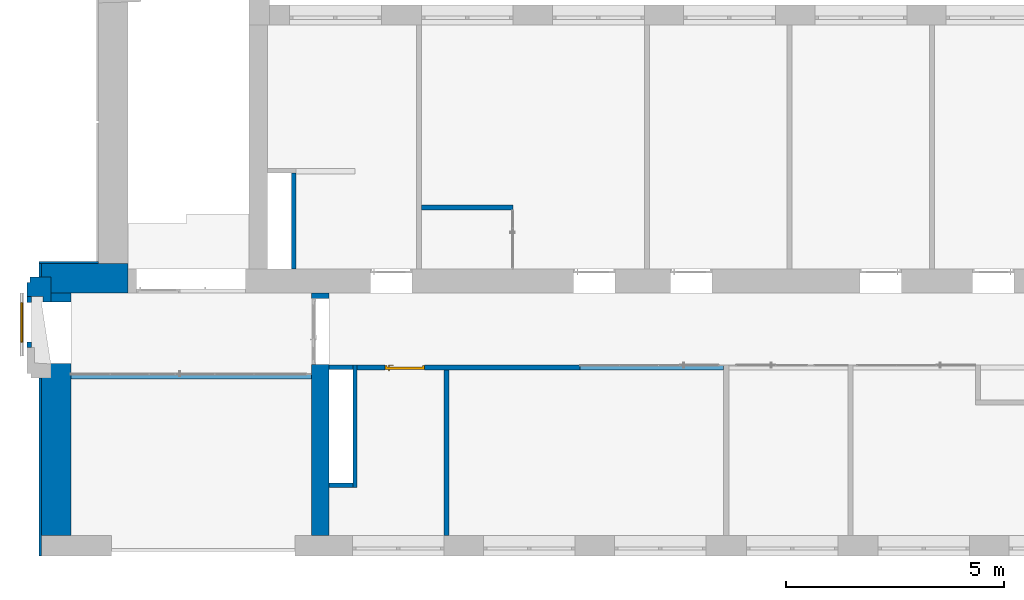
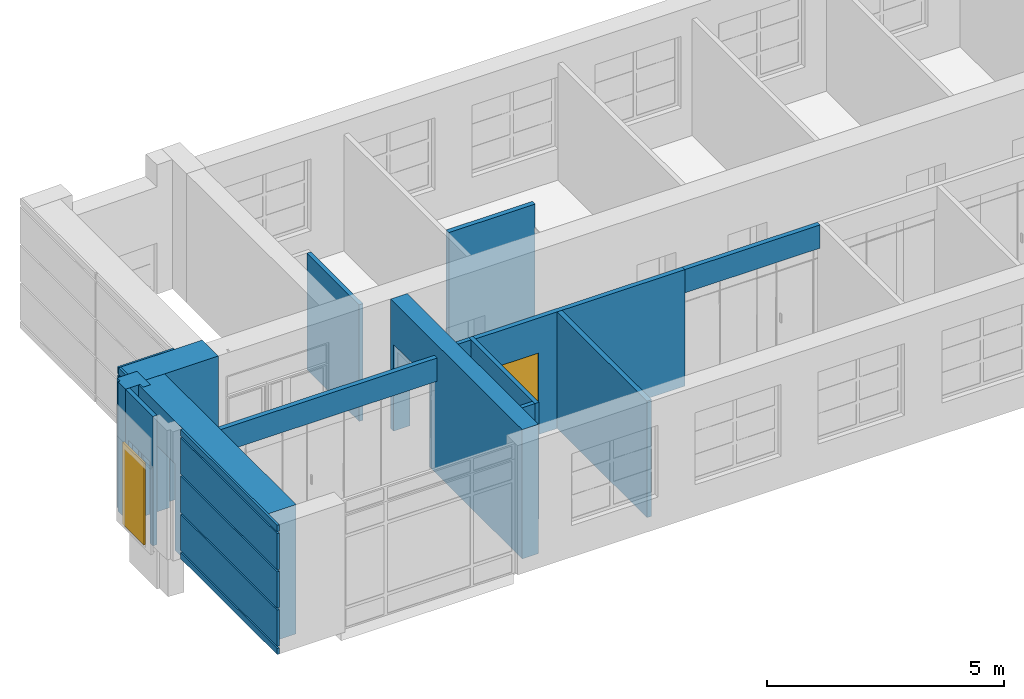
# One storey, part 50 of 73: 16 walls, 2 doors, 6 openings.
"""IFC2X3 building model written with IfcOpenShell, lengths in millimetres."""

from ifc_helpers import new_model, entity, si_unit, converted_unit, derived_unit, direction, frame, frame_2d, origin, origin_2d_with_axis, place, context, subcontext, project, spatial, polyline, rectangle, outline, extrude, clip, bounded_halfspace, faceted_brep, source, transform, mapped, material, material_list, layer, layer_set, layer_usage, type_object, type_shapes, element, fill, save


model = new_model("IFC2X3")

# Units and contexts
model_context = context("Model", 3, precision=0.01, world=origin(), true_north=direction((6.12303176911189e-17, 1.0)))
body_context = subcontext(model_context, "Body", "Model", "MODEL_VIEW")
ifc_project = project(units=[si_unit("LENGTHUNIT", "METRE", prefix="MILLI"), si_unit("AREAUNIT", "SQUARE_METRE"), si_unit("VOLUMEUNIT", "CUBIC_METRE"), converted_unit("PLANEANGLEUNIT", "DEGREE", entity("IfcRatioMeasure", 0.0174532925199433), si_unit("PLANEANGLEUNIT", "RADIAN"), dimensions=[0, 0, 0, 0, 0, 0, 0]), si_unit("MASSUNIT", "GRAM", prefix="KILO"), derived_unit("MASSDENSITYUNIT", [(si_unit("MASSUNIT", "GRAM", prefix="KILO"), 1), (si_unit("LENGTHUNIT", "METRE"), -3)]), si_unit("TIMEUNIT", "SECOND"), si_unit("FREQUENCYUNIT", "HERTZ"), si_unit("THERMODYNAMICTEMPERATUREUNIT", "DEGREE_CELSIUS"), derived_unit("THERMALTRANSMITTANCEUNIT", [(si_unit("MASSUNIT", "GRAM", prefix="KILO"), 1), (si_unit("THERMODYNAMICTEMPERATUREUNIT", "KELVIN"), -1), (si_unit("TIMEUNIT", "SECOND"), -3)]), derived_unit("VOLUMETRICFLOWRATEUNIT", [(si_unit("LENGTHUNIT", "METRE"), 3), (si_unit("TIMEUNIT", "SECOND"), -1)]), si_unit("ELECTRICCURRENTUNIT", "AMPERE"), si_unit("ELECTRICVOLTAGEUNIT", "VOLT"), si_unit("POWERUNIT", "WATT"), si_unit("FORCEUNIT", "NEWTON", prefix="KILO"), si_unit("ILLUMINANCEUNIT", "LUX"), si_unit("LUMINOUSFLUXUNIT", "LUMEN"), si_unit("LUMINOUSINTENSITYUNIT", "CANDELA"), derived_unit("USERDEFINED", [(si_unit("MASSUNIT", "GRAM", prefix="KILO"), -1), (si_unit("LENGTHUNIT", "METRE"), -2), (si_unit("TIMEUNIT", "SECOND"), 3), (si_unit("LUMINOUSFLUXUNIT", "LUMEN"), 1)]), derived_unit("LINEARVELOCITYUNIT", [(si_unit("LENGTHUNIT", "METRE"), 1), (si_unit("TIMEUNIT", "SECOND"), -1)]), si_unit("PRESSUREUNIT", "PASCAL"), derived_unit("USERDEFINED", [(si_unit("LENGTHUNIT", "METRE"), -2), (si_unit("MASSUNIT", "GRAM", prefix="KILO"), 1), (si_unit("TIMEUNIT", "SECOND"), -2)])], contexts=[model_context])

# Site, building, storey
site_placement = place(None, frame((-151.875543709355, 2715.0, 0.0)))
site = spatial("IfcSite", under=ifc_project, at=site_placement, Name="Surface", CompositionType="ELEMENT")
building_placement = place(site_placement, origin())
building = spatial("IfcBuilding", under=site, at=building_placement, CompositionType="ELEMENT")
storey_placement = place(building_placement, frame((0.0, 0.0, 6730.43000000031)))
storey = spatial("IfcBuildingStorey", under=building, at=storey_placement, Name="3 korrus", CompositionType="ELEMENT", Elevation=6730.43000000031)

# Wall
ifc_material_1 = material(Name="Paint - Sand Beige")
wall_type_1 = type_object("IfcWallType", Name="SEIN - 008", PredefinedType="NOTDEFINED", material=ifc_material_1)
wall_1_placement = place(storey_placement, frame((-541.883383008, 5811.79428101, 0.00203353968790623), z_axis=(0.0, 0.0, 1.0), x_axis=(0.0, 1.0, 0.0)))
element("IfcWall", 1, at=wall_1_placement, inside=storey, type_object=wall_type_1, material=ifc_material_1, Name="SEIN - 008 125636:SEIN - 008 125636", ObjectType="SEIN - 008 125636:SEIN - 008 125636", context=body_context, shape_type="SweptSolid", body=[
    extrude(outline(polyline([(-157.552994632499, -240.085415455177), (163.395247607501, -240.085415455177), (163.395247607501, 118.497317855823), (281.7118979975, 118.497317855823), (281.7118979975, 301.673513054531), (-287.554150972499, 301.673513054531), (-287.554150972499, -180.085415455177), (-157.552994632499, -180.085415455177), (-157.552994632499, -240.085415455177)])), frame((281.7118979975, -240.085415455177, 0.0), z_axis=(0.0, 0.0, 1.0), x_axis=(-1.0, 0.0, 0.0)), (0.0, 0.0, 1.0), 3329.56796646),
])

# Wall, opening, door
ifc_material_2 = material(Name="Tellis")
ifc_layer_1 = layer(ifc_material_2, 90.0)
ifc_material_3 = material(Name="__Hall krohv")
ifc_layer_2 = layer(ifc_material_3, 10.0)
ifc_layer_set_1 = layer_set([ifc_layer_1, ifc_layer_2], Name="Basic Wall:SS-01_ol.olev tellissein100")
ifc_layer_usage_1 = layer_usage(ifc_layer_set_1, "AXIS2", "NEGATIVE", 50.0)
wall_type_2 = type_object("IfcWallType", Name="Basic Wall:SS-01_ol.olev tellissein100", PredefinedType="STANDARD", material=ifc_layer_set_1)
wall_2_placement = place(storey_placement, frame((-491.883383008, 4771.38562567, 0.00203353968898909), z_axis=(0.0, 0.0, 1.0), x_axis=(0.0, 1.0, 0.0)))
wall_2 = element("IfcWallStandardCase", 2, at=wall_2_placement, inside=storey, type_object=wall_type_2, material=ifc_layer_usage_1, Name="SEIN - 008", ObjectType="Basic Wall:SS-01_ol.olev tellissein100", context=body_context, shape_type="SweptSolid", body=[
    extrude(rectangle(XDim=1158.72530573, YDim=100.0, at=frame_2d((579.362652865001, 0.0), x_axis=(-1.0, 0.0))), origin(), (0.0, 0.0, 1.0), 3329.56796646),
])
opening_1_placement = place(wall_2_placement, frame((-4771.38562567, -491.883383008, -0.00203353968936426), z_axis=(0.0, 0.0, 1.0), x_axis=(0.0, -1.0, 0.0)))
opening_1 = element("IfcOpeningElement", 3, at=opening_1_placement, cuts=wall_2, Name="SEIN - 008", ObjectType="Opening", context=body_context, shape_type="SweptSolid", body=[
    extrude(rectangle(XDim=2100.0, YDim=903.930664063, at=frame_2d((5.40012479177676e-13, 5.6843418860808e-13), x_axis=(0.0, 1.0))), frame((-338.883383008, 5344.60067749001, 1050.00203353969), z_axis=(-1.0, 0.0, 0.0), x_axis=(0.0, -1.0, 0.0)), (0.0, 0.0, 1.0), 306.0),
])
ifc_material_4 = material(Name="Wood - Pine Grained Horizontal")
door_style_1 = type_object("IfcDoorStyle", Name="liftiuks", ConstructionType="NOTDEFINED", OperationType="NOTDEFINED", ParameterTakesPrecedence=False, Sizeable=False, material=ifc_material_4)
shared_shape_1 = source(origin(), body_context, "Body", "SweptSolid", [
    extrude(rectangle(XDim=451.965332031, YDim=40.0, at=origin_2d_with_axis()), frame((225.982666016, 22.0, 0.0), z_axis=(0.0, 0.0, 1.0), x_axis=(-1.0, 0.0, 0.0)), (0.0, 0.0, 1.0), 2100.0),
    extrude(rectangle(XDim=40.0, YDim=451.965332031, at=origin_2d_with_axis()), frame((677.947998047, 22.0, 0.0), z_axis=(0.0, 0.0, 1.0), x_axis=(0.0, 1.0, 0.0)), (0.0, 0.0, 1.0), 2100.0),
])
type_shapes(door_style_1, [shared_shape_1])
door_1_placement = place(opening_1_placement, frame((-644.883383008, 4892.63534545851, 0.00203353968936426), z_axis=(0.0, 0.0, 1.0), x_axis=(0.0, 1.0, 0.0)))
door_1 = element("IfcDoor", 4, at=door_1_placement, inside=storey, type_object=door_style_1, material=ifc_material_4, Name="liftiuks:liftiuks", ObjectType="liftiuks", OverallHeight=2100.0, OverallWidth=903.930664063, context=body_context, shape_type="MappedRepresentation", body=[
    mapped(shared_shape_1, transform((0.0, 0.0, 0.0), scale=1.0)),
])
fill(opening_1, door_1)

# Wall, opening
ifc_material_5 = material(Name="__Tuuletõkkeplaat")
ifc_layer_3 = layer(ifc_material_5, 9.0)
ifc_material_6 = material(Name="__Soojustus EPS")
ifc_layer_4 = layer(ifc_material_6, 200.0)
ifc_material_7 = material(Name="Brick, Common")
ifc_layer_5 = layer(ifc_material_7, 450.0)
ifc_material_8 = material(Name="__Kips GN13_tava")
ifc_layer_6 = layer(ifc_material_8, 20.0)
ifc_layer_set_2 = layer_set([ifc_layer_3, ifc_layer_4, ifc_layer_5, ifc_layer_6], Name="Basic Wall:VS-2_olemasolev sein fassaadikassettidega")
ifc_layer_usage_2 = layer_usage(ifc_layer_set_2, "AXIS2", "NEGATIVE", 339.5)
wall_type_3 = type_object("IfcWallType", Name="Basic Wall:VS-2_olemasolev sein fassaadikassettidega", PredefinedType="STANDARD", material=ifc_layer_set_2)
wall_3_placement = place(storey_placement, frame((120.375545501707, 459.904632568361, 0.00203353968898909), z_axis=(0.0, 0.0, 1.0), x_axis=(0.0, 1.0, 0.0)))
wall_3 = element("IfcWallStandardCase", 5, at=wall_3_placement, inside=storey, type_object=wall_type_3, material=ifc_layer_usage_2, Name="SEIN - 001", ObjectType="Basic Wall:VS-2_olemasolev sein fassaadikassettidega", context=body_context, shape_type="SweptSolid", body=[
    extrude(rectangle(XDim=5550.09536743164, YDim=679.0, at=frame_2d((2775.04768371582, -5.6843418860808e-14), x_axis=(-1.0, 0.0))), origin(), (0.0, 0.0, 1.0), 3329.56796646),
])
opening_2_placement = place(wall_3_placement, origin())
element("IfcOpeningElement", 6, at=opening_2_placement, cuts=wall_3, Name="SEIN - 001", ObjectType="Opening", context=body_context, shape_type="SweptSolid", body=[
    extrude(rectangle(XDim=2230.0, YDim=1410.5172629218, at=frame_2d((0.0, -5.6843418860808e-13), x_axis=(1.0, 0.0))), frame((4646.6310169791, -339.5, 1115.0), z_axis=(0.0, 1.0, 0.0), x_axis=(0.0, 0.0, -1.0)), (0.0, 0.0, 1.0), 679.0),
])

# Wall
ifc_layer_usage_3 = layer_usage(ifc_layer_set_2, "AXIS2", "NEGATIVE", 339.5)
wall_4_placement = place(storey_placement, frame((-219.124454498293, 6349.5, 0.00203353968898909)))
element("IfcWallStandardCase", 7, at=wall_4_placement, inside=storey, type_object=wall_type_3, material=ifc_layer_usage_3, Name="SEIN - 002", ObjectType="Basic Wall:VS-2_olemasolev sein fassaadikassettidega", context=body_context, shape_type="SweptSolid", body=[
    extrude(rectangle(XDim=1989.12445449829, YDim=678.999999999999, at=frame_2d((994.562227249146, 0.0), x_axis=(-1.0, 0.0))), origin(), (0.0, 0.0, 1.0), 3329.56796646),
])

# Wall, openings
ifc_layer_7 = layer(ifc_material_3, 10.0)
ifc_layer_8 = layer(ifc_material_2, 380.0)
ifc_layer_9 = layer(ifc_material_3, 10.0)
ifc_layer_set_3 = layer_set([ifc_layer_7, ifc_layer_8, ifc_layer_9], Name="Basic Wall:SS-01_ol.olev tellissein400")
ifc_layer_usage_4 = layer_usage(ifc_layer_set_3, "AXIS2", "NEGATIVE", 200.0)
wall_type_4 = type_object("IfcWallType", Name="Basic Wall:SS-01_ol.olev tellissein400", PredefinedType="STANDARD", material=ifc_layer_set_3)
wall_5_placement = place(storey_placement, frame((6162.49352943, 459.904632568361, 0.00203353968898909), z_axis=(0.0, 0.0, 1.0), x_axis=(0.0, 1.0, 0.0)))
wall_5 = element("IfcWallStandardCase", 8, at=wall_5_placement, inside=storey, type_object=wall_type_4, material=ifc_layer_usage_4, Name="SEIN - 001", ObjectType="Basic Wall:SS-01_ol.olev tellissein400", context=body_context, shape_type="SweptSolid", body=[
    extrude(rectangle(XDim=5550.09536743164, YDim=400.0, at=frame_2d((2775.04768371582, 0.0), x_axis=(-1.0, 0.0))), origin(), (0.0, 0.0, 1.0), 3329.56796646),
])
opening_3_placement = place(wall_5_placement, origin())
element("IfcOpeningElement", 9, at=opening_3_placement, cuts=wall_5, Name="SEIN - 001", ObjectType="Opening", context=body_context, shape_type="SweptSolid", body=[
    extrude(rectangle(XDim=2230.0, YDim=1510.16235352, at=origin_2d_with_axis()), frame((4671.45356888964, -200.0, 1115.0), z_axis=(0.0, 1.0, 0.0), x_axis=(0.0, 0.0, -1.0)), (0.0, 0.0, 1.0), 800.0),
])
opening_4_placement = place(wall_5_placement, origin())
element("IfcOpeningElement", 10, at=opening_4_placement, cuts=wall_5, Name="SEIN - 001", ObjectType="Opening", context=body_context, shape_type="SweptSolid", body=[
    extrude(rectangle(XDim=2419.99999999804, YDim=1500.0, at=frame_2d((-1.02318153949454e-12, 5.11590769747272e-13), x_axis=(1.0, 0.0))), frame((4666.37239212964, -1724.0, 4539.56593291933), z_axis=(0.0, 1.0, 0.0), x_axis=(0.0, 0.0, 1.0)), (0.0, 0.0, 1.0), 3048.0),
])
opening_5_placement = place(wall_5_placement, frame((3916.37239212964, -200.0, -0.00203353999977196)))
element("IfcOpeningElement", 11, at=opening_5_placement, cuts=wall_5, Name="Kahepoolsed:SU-14:1", ObjectType="Opening", context=body_context, shape_type="SweptSolid", body=[
    extrude(rectangle(XDim=2199.99999999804, YDim=1500.0, at=frame_2d((1099.99999999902, 750.0), x_axis=(1.0, 0.0))), frame((0.0, 0.0, 0.0), z_axis=(0.0, 1.0, 0.0), x_axis=(0.0, 0.0, 1.0)), (0.0, 0.0, 1.0), 400.0),
])

# Wall
ifc_layer_10 = layer(ifc_material_8, 12.5)
ifc_layer_11 = layer(ifc_material_8, 12.5)
ifc_layer_12 = layer(ifc_material_6, 66.0)
ifc_layer_13 = layer(ifc_material_8, 12.5)
ifc_layer_14 = layer(ifc_material_8, 12.5)
ifc_layer_set_4 = layer_set([ifc_layer_10, ifc_layer_11, ifc_layer_12, ifc_layer_13, ifc_layer_14], Name="Basic Wall:SS-3_Kipssein tava ruumide vahel")
ifc_layer_usage_5 = layer_usage(ifc_layer_set_4, "AXIS2", "NEGATIVE", 58.0)
wall_type_5 = type_object("IfcWallType", Name="Basic Wall:SS-3_Kipssein tava ruumide vahel", PredefinedType="STANDARD", material=ifc_layer_set_4)
wall_6_placement = place(storey_placement, frame((9057.56472636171, 459.904632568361, 0.0), z_axis=(0.0, 0.0, 1.0), x_axis=(0.0, 1.0, 0.0)))
element("IfcWallStandardCase", 12, at=wall_6_placement, inside=storey, type_object=wall_type_5, material=ifc_layer_usage_5, Name="Basic Wall:SS-3_Kipssein tava ruumide vahel", ObjectType="Basic Wall:SS-3_Kipssein tava ruumide vahel", context=body_context, shape_type="SweptSolid", body=[
    extrude(rectangle(XDim=3789.13683018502, YDim=116.0, at=frame_2d((1894.56841509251, -9.59232693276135e-14), x_axis=(-1.0, 0.0))), origin(), (0.0, 0.0, 1.0), 3000.0),
])

# Wall, opening, door
ifc_layer_usage_6 = layer_usage(ifc_layer_set_4, "AXIS2", "NEGATIVE", 58.0)
wall_7_placement = place(storey_placement, frame((7012.49352946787, 4307.04146275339, 0.0)))
wall_7 = element("IfcWallStandardCase", 13, at=wall_7_placement, inside=storey, type_object=wall_type_5, material=ifc_layer_usage_6, Name="Basic Wall:SS-3_Kipssein tava ruumide vahel", ObjectType="Basic Wall:SS-3_Kipssein tava ruumide vahel", context=body_context, shape_type="SweptSolid", body=[
    extrude(rectangle(XDim=5101.07119693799, YDim=116.0, at=frame_2d((2550.535598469, 0.0), x_axis=(-1.0, 0.0))), origin(), (0.0, 0.0, 1.0), 3000.0),
])
opening_6_placement = place(wall_7_placement, frame((1537.07119689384, 58.0, 0.0)))
opening_6 = element("IfcOpeningElement", 14, at=opening_6_placement, cuts=wall_7, Name="Ühepoolsed:SU-06:1", ObjectType="Opening", context=body_context, shape_type="SweptSolid", body=[
    extrude(rectangle(XDim=2099.99999999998, YDim=900.0, at=frame_2d((1049.99999999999, 450.0), x_axis=(1.0, 0.0))), frame((0.0, 0.0, 0.0), z_axis=(0.0, -1.0, 0.0), x_axis=(0.0, 0.0, 1.0)), (0.0, 0.0, 1.0), 116.0),
])
ifc_material_9 = material(Name="_Alumiiniumprofiil - must")
ifc_material_10 = material(Name="__Uks_hele tamm")
ifc_material_list_1 = material_list([ifc_material_9, ifc_material_10])
ifc_material_list_2 = material_list([ifc_material_9, ifc_material_10])
door_style_2 = type_object("IfcDoorStyle", Name="SU-06", ConstructionType="NOTDEFINED", OperationType="FOLDING_TO_LEFT", ParameterTakesPrecedence=False, Sizeable=False, material=ifc_material_list_2)
shared_shape_2 = source(origin(), body_context, "Body", "Brep", [
    faceted_brep([(800.0, 6.0, 1112.5), (705.0, 6.0, 1112.5), (705.0, 1.0, 1112.5), (825.0, 1.0, 1112.5), (825.0, 44.0, 1112.5), (800.0, 44.0, 1112.5), (800.0, 6.0, 1087.5), (800.0, 44.0, 1087.5), (825.0, 44.0, 1087.5), (825.0, 1.0, 1087.5), (705.0, 1.0, 1087.5), (705.0, 6.0, 1087.5)], [[[0, 1, 2, 3, 4, 5]], [[6, 7, 8, 9, 10, 11]], [[5, 7, 6, 0]], [[4, 8, 7, 5]], [[3, 9, 8, 4]], [[2, 10, 9, 3]], [[1, 11, 10, 2]], [[0, 6, 11, 1]]]),
    faceted_brep([(787.500000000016, 44.0, 1137.5), (837.500000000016, 44.0, 1137.5), (837.500000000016, 46.0, 1137.5), (787.500000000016, 46.0, 1137.5), (787.500000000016, 44.0, 1017.5), (787.500000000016, 46.0, 1017.5), (837.500000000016, 46.0, 1017.5), (837.500000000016, 44.0, 1017.5)], [[[0, 1, 2, 3]], [[4, 5, 6, 7]], [[3, 5, 4, 0]], [[2, 6, 5, 3]], [[1, 7, 6, 2]], [[0, 4, 7, 1]]]),
    faceted_brep([(800.0, 136.0, 1112.5), (800.0, 98.0, 1112.5), (825.0, 98.0, 1112.5), (825.0, 141.0, 1112.5), (705.0, 141.0, 1112.5), (705.0, 136.0, 1112.5), (800.0, 136.0, 1087.5), (705.0, 136.0, 1087.5), (705.0, 141.0, 1087.5), (825.0, 141.0, 1087.5), (825.0, 98.0, 1087.5), (800.0, 98.0, 1087.5)], [[[0, 1, 2, 3, 4, 5]], [[6, 7, 8, 9, 10, 11]], [[1, 0, 6, 11]], [[2, 1, 11, 10]], [[3, 2, 10, 9]], [[4, 3, 9, 8]], [[5, 4, 8, 7]], [[0, 5, 7, 6]]]),
    faceted_brep([(787.500000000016, 98.0, 1137.5), (787.500000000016, 96.0, 1137.5), (837.500000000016, 96.0, 1137.5), (837.500000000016, 98.0, 1137.5), (787.500000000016, 98.0, 1017.5), (837.500000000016, 98.0, 1017.5), (837.500000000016, 96.0, 1017.5), (787.500000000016, 96.0, 1017.5)], [[[0, 1, 2, 3]], [[4, 5, 6, 7]], [[1, 0, 4, 7]], [[2, 1, 7, 6]], [[3, 2, 6, 5]], [[0, 3, 5, 4]]]),
    faceted_brep([(0.0, 6.0, 0.0), (0.0, 96.0, 0.0), (25.0, 96.0, 0.0), (25.0, 46.0, 0.0), (40.0, 46.0, 0.0), (40.0, 6.0, 0.0), (40.0, 6.0, 2060.0), (860.0, 6.0, 2060.0), (860.0, 6.0, 0.0), (900.0, 6.0, 0.0), (900.0, 6.0, 2100.0), (0.0, 6.0, 2100.0), (40.0, 46.0, 2060.0), (25.0, 46.0, 2075.0), (875.0, 46.0, 2075.0), (875.0, 46.0, 0.0), (860.0, 46.0, 0.0), (860.0, 46.0, 2060.0), (25.0, 96.0, 2075.0), (0.0, 96.0, 2100.0), (900.0, 96.0, 2100.0), (900.0, 96.0, 0.0), (875.0, 96.0, 0.0), (875.0, 96.0, 2075.0)], [[[0, 1, 2, 3, 4, 5]], [[5, 6, 7, 8, 9, 10, 11, 0]], [[4, 12, 6, 5]], [[3, 13, 14, 15, 16, 17, 12, 4]], [[2, 18, 13, 3]], [[1, 19, 20, 21, 22, 23, 18, 2]], [[0, 11, 19, 1]], [[9, 21, 20, 10]], [[8, 16, 15, 22, 21, 9]], [[7, 17, 16, 8]], [[14, 23, 22, 15]], [[6, 12, 17, 7]], [[13, 18, 23, 14]], [[10, 20, 19, 11]]]),
    faceted_brep([(875.0, 46.0, 2075.0), (25.0, 46.0, 2075.0), (25.0, 46.0, 20.0), (875.0, 46.0, 20.0), (875.0, 96.0, 2075.0), (875.0, 96.0, 20.0), (25.0, 96.0, 20.0), (25.0, 96.0, 2075.0)], [[[0, 1, 2, 3]], [[4, 5, 6, 7]], [[3, 5, 4, 0]], [[2, 6, 5, 3]], [[1, 7, 6, 2]], [[0, 4, 7, 1]]]),
])
type_shapes(door_style_2, [shared_shape_2])
door_2_placement = place(opening_6_placement, frame((0.0, 0.0, 0.0), z_axis=(0.0, 0.0, 1.0), x_axis=(-1.0, 0.0, 0.0)))
door_2 = element("IfcDoor", 15, at=door_2_placement, inside=storey, type_object=door_style_2, material=ifc_material_list_1, Name="Ühepoolsed:SU-06", ObjectType="SU-06", OverallHeight=2099.99999999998, OverallWidth=900.0, context=body_context, shape_type="MappedRepresentation", body=[
    mapped(shared_shape_2, transform((0.0, 0.0, 0.0), scale=1.0)),
])
fill(opening_6, door_2)

# Walls
ifc_layer_usage_7 = layer_usage(ifc_layer_set_4, "AXIS2", "NEGATIVE", 58.0)
wall_8_placement = place(storey_placement, frame((12115.5647264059, 4307.04493399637, 2400.0)))
element("IfcWallStandardCase", 16, at=wall_8_placement, inside=storey, type_object=wall_type_5, material=ifc_layer_usage_7, Name="Basic Wall:SS-3_Kipssein tava ruumide vahel", ObjectType="Basic Wall:SS-3_Kipssein tava ruumide vahel", context=body_context, shape_type="SweptSolid", body=[
    extrude(rectangle(XDim=3286.00000000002, YDim=116.0, at=frame_2d((1643.00000000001, 0.0), x_axis=(-1.0, 0.0))), origin(), (0.0, 0.0, 1.0), 599.569999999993),
])
ifc_layer_usage_8 = layer_usage(ifc_layer_set_4, "AXIS2", "NEGATIVE", 58.0)
wall_9_placement = place(storey_placement, frame((459.875545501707, 4107.0449339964, 2400.0)))
element("IfcWallStandardCase", 17, at=wall_9_placement, inside=storey, type_object=wall_type_5, material=ifc_layer_usage_8, Name="Basic Wall:SS-3_Kipssein tava ruumide vahel", ObjectType="Basic Wall:SS-3_Kipssein tava ruumide vahel", context=body_context, shape_type="SweptSolid", body=[
    extrude(rectangle(XDim=5502.61798392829, YDim=116.0, at=frame_2d((2751.30899196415, -1.52766688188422e-13), x_axis=(-1.0, 0.0))), origin(), (0.0, 0.0, 1.0), 599.569999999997),
])
ifc_layer_usage_9 = layer_usage(ifc_layer_set_4, "AXIS2", "NEGATIVE", 58.0)
wall_10_placement = place(storey_placement, frame((10582.8493480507, 7973.06145812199, 0.0), z_axis=(0.0, 0.0, 1.0), x_axis=(-1.0, 0.0, 0.0)))
element("IfcWallStandardCase", 18, at=wall_10_placement, inside=storey, type_object=wall_type_5, material=ifc_layer_usage_9, Name="Basic Wall:SS-3_Kipssein tava ruumide vahel", ObjectType="Basic Wall:SS-3_Kipssein tava ruumide vahel", context=body_context, shape_type="SweptSolid", body=[
    extrude(rectangle(XDim=2099.99999999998, YDim=116.0, at=frame_2d((1049.99999999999, 1.17239551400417e-13), x_axis=(-1.0, 0.0))), origin(), (0.0, 0.0, 1.0), 3000.0),
])
ifc_material_11 = material(Name="__Helehall")
ifc_layer_15 = layer(ifc_material_11, 10.0)
ifc_material_12 = material(Name="__Kergblokk")
ifc_layer_16 = layer(ifc_material_12, 90.0)
ifc_layer_set_5 = layer_set([ifc_layer_15, ifc_layer_16], Name="Basic Wall:SS-6_Šahti sein EI-60")
ifc_layer_usage_10 = layer_usage(ifc_layer_set_5, "AXIS2", "NEGATIVE", 50.0)
wall_type_6 = type_object("IfcWallType", Name="Basic Wall:SS-6_Šahti sein EI-60", PredefinedType="STANDARD", material=ifc_layer_set_5)
wall_11_placement = place(storey_placement, frame((5560.76301534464, 8760.0, 0.0), z_axis=(0.0, 0.0, 1.0), x_axis=(0.0, -1.0, 0.0)))
element("IfcWallStandardCase", 19, at=wall_11_placement, inside=storey, type_object=wall_type_6, material=ifc_layer_usage_10, Name="Basic Wall:SS-6_Šahti sein EI-60", ObjectType="Basic Wall:SS-6_Šahti sein EI-60", context=body_context, shape_type="Clipping", body=[
    clip(extrude(rectangle(XDim=2199.9999999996, YDim=99.9999999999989, at=frame_2d((1099.9999999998, 7.8159700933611e-14), x_axis=(-1.0, 0.0))), origin(), (0.0, 0.0, 1.0), 2999.57000000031), bounded_halfspace(frame((0.0, -50.0, 2999.57000000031), z_axis=(0.0, 0.0, -1.0), x_axis=(0.0, -1.0, 0.0)), True, frame((0.0, -50.0, 2999.57000000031)), polyline([(0.0, 0.0), (2200.0, 0.0), (2200.0, 100.0), (0.0, 100.0), (0.0, 0.0)]))),
])
ifc_layer_usage_11 = layer_usage(ifc_layer_set_5, "AXIS2", "NEGATIVE", 50.0)
wall_12_placement = place(storey_placement, frame((6362.49352943, 4314.79940713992, 0.0)))
element("IfcWallStandardCase", 20, at=wall_12_placement, inside=storey, type_object=wall_type_6, material=ifc_layer_usage_11, Name="Basic Wall:SS-6_Šahti sein EI-60", ObjectType="Basic Wall:SS-6_Šahti sein EI-60", context=body_context, shape_type="Clipping", body=[
    clip(extrude(rectangle(XDim=550.000000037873, YDim=100.0, at=frame_2d((275.000000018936, 8.17124146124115e-14), x_axis=(-1.0, 0.0))), origin(), (0.0, 0.0, 1.0), 2999.57000000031), bounded_halfspace(frame((0.0, -50.0, 2999.57000000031), z_axis=(0.0, 0.0, -1.0), x_axis=(1.0, 0.0, 0.0)), True, frame((0.0, -50.0, 2999.57000000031)), polyline([(0.0, 0.0), (550.0, 0.0), (550.0, 100.0), (0.0, 100.0), (0.0, 0.0)]))),
])
ifc_layer_usage_12 = layer_usage(ifc_layer_set_5, "AXIS2", "NEGATIVE", 50.0)
wall_13_placement = place(storey_placement, frame((6962.49352946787, 4365.04146275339, 0.0), z_axis=(0.0, 0.0, 1.0), x_axis=(0.0, -1.0, 0.0)))
element("IfcWallStandardCase", 21, at=wall_13_placement, inside=storey, type_object=wall_type_6, material=ifc_layer_usage_12, Name="Basic Wall:SS-6_Šahti sein EI-60", ObjectType="Basic Wall:SS-6_Šahti sein EI-60", context=body_context, shape_type="SweptSolid", body=[
    extrude(rectangle(XDim=2799.9965287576, YDim=99.9999999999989, at=frame_2d((1399.9982643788, -9.59232693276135e-14), x_axis=(-1.0, 0.0))), origin(), (0.0, 0.0, 1.0), 2999.57),
])
ifc_layer_usage_13 = layer_usage(ifc_layer_set_5, "AXIS2", "NEGATIVE", 50.0)
wall_14_placement = place(storey_placement, frame((6912.49352946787, 1615.0449339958, 0.0), z_axis=(0.0, 0.0, 1.0), x_axis=(-1.0, 0.0, 0.0)))
element("IfcWallStandardCase", 22, at=wall_14_placement, inside=storey, type_object=wall_type_6, material=ifc_layer_usage_13, Name="Basic Wall:SS-6_Šahti sein EI-60", ObjectType="Basic Wall:SS-6_Šahti sein EI-60", context=body_context, shape_type="Clipping", body=[
    clip(extrude(rectangle(XDim=550.000000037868, YDim=100.0, at=frame_2d((275.000000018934, -5.32907051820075e-14), x_axis=(-1.0, 0.0))), origin(), (0.0, 0.0, 1.0), 2999.57000000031), bounded_halfspace(frame((0.0, -50.0, 2999.57000000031), z_axis=(0.0, 0.0, -1.0), x_axis=(-1.0, 0.0, 0.0)), True, frame((0.0, -50.0, 2999.57000000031)), polyline([(0.0, 0.0), (550.0, 0.0), (550.0, 100.0), (0.0, 100.0), (0.0, 0.0)]))),
])
ifc_material_13 = material(Name="Steel/Aluminium")
wall_type_7 = type_object("IfcWallType", Name="fassaad8.1:fassaad8.1", PredefinedType="NOTDEFINED", material=ifc_material_13)
wall_15_placement = place(storey_placement, frame((-269.12445449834, -0.0953674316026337, 0.0), z_axis=(0.0, 0.0, 1.0), x_axis=(0.0, 1.0, 0.0)))
element("IfcWall", 23, at=wall_15_placement, inside=storey, type_object=wall_type_7, material=ifc_material_13, Name="fassaad8.1:fassaad8.1", ObjectType="fassaad8.1:fassaad8.1", context=body_context, shape_type="SweptSolid", body=[
    extrude(rectangle(XDim=50.0, YDim=4070.90546009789, at=frame_2d((-3.37507799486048e-14, 0.0), x_axis=(1.0, 0.0))), frame((2035.45273004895, -25.0, 2178.99998531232), z_axis=(0.0, 0.0, 1.0), x_axis=(0.0, -1.0, 0.0)), (0.0, 0.0, 1.0), 934.999999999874),
    extrude(rectangle(XDim=50.0, YDim=4070.9054600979, at=origin_2d_with_axis()), frame((2035.45273004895, -25.0, 0.0), z_axis=(0.0, 0.0, 1.0), x_axis=(0.0, -1.0, 0.0)), (0.0, 0.0, 1.0), 159.0),
    extrude(rectangle(XDim=50.0, YDim=4070.90546009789, at=frame_2d((-1.77635683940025e-14, 0.0), x_axis=(1.0, 0.0))), frame((2035.45273004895, -25.0, 208.999985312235), z_axis=(0.0, 0.0, 1.0), x_axis=(0.0, -1.0, 0.0)), (0.0, 0.0, 1.0), 934.999999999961),
    extrude(rectangle(XDim=50.0, YDim=303.940826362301, at=origin_2d_with_axis()), frame((6532.87587327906, -25.0, 0.0), z_axis=(0.0, 0.0, 1.0), x_axis=(0.0, -1.0, 0.0)), (0.0, 0.0, 1.0), 159.000000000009),
    extrude(rectangle(XDim=50.0, YDim=303.940826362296, at=origin_2d_with_axis()), frame((6532.87587327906, -25.0, 208.999985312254), z_axis=(0.0, 0.0, 1.0), x_axis=(0.0, -1.0, 0.0)), (0.0, 0.0, 1.0), 934.999999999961),
    extrude(rectangle(XDim=50.0, YDim=303.940826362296, at=origin_2d_with_axis()), frame((6532.87587327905, -25.0, 3163.99998531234), z_axis=(0.0, 0.0, 1.0), x_axis=(0.0, -1.0, 0.0)), (0.0, 0.0, 1.0), 166.000014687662),
    extrude(rectangle(XDim=50.0, YDim=4070.90546009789, at=frame_2d((-1.77635683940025e-14, 0.0), x_axis=(1.0, 0.0))), frame((2035.45273004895, -25.0, 1193.99998531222), z_axis=(0.0, 0.0, 1.0), x_axis=(0.0, -1.0, 0.0)), (0.0, 0.0, 1.0), 934.999999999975),
    extrude(rectangle(XDim=50.0, YDim=4070.90546009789, at=frame_2d((-1.77635683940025e-14, 0.0), x_axis=(1.0, 0.0))), frame((2035.45273004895, -25.0, 3163.99998531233), z_axis=(0.0, 0.0, 1.0), x_axis=(0.0, -1.0, 0.0)), (0.0, 0.0, 1.0), 166.000014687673),
    extrude(rectangle(XDim=50.0, YDim=303.940826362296, at=origin_2d_with_axis()), frame((6532.87587327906, -25.0, 1193.99998531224), z_axis=(0.0, 0.0, 1.0), x_axis=(0.0, -1.0, 0.0)), (0.0, 0.0, 1.0), 934.999999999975),
    extrude(rectangle(XDim=50.0, YDim=303.940826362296, at=frame_2d((-1.77635683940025e-14, 0.0), x_axis=(1.0, 0.0))), frame((6532.87587327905, -25.0, 2178.99998531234), z_axis=(0.0, 0.0, 1.0), x_axis=(0.0, -1.0, 0.0)), (0.0, 0.0, 1.0), 934.999999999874),
])
wall_type_8 = type_object("IfcWallType", Name="fassaad10.1:fassaad10.1", PredefinedType="NOTDEFINED", material=ifc_material_13)
wall_16_placement = place(storey_placement, frame((-269.0, 6689.0, 0.0)))
element("IfcWall", 24, at=wall_16_placement, inside=storey, type_object=wall_type_8, material=ifc_material_13, Name="fassaad10.1:fassaad10.1", ObjectType="fassaad10.1:fassaad10.1", context=body_context, shape_type="SweptSolid", body=[
    extrude(rectangle(XDim=49.9999999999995, YDim=1359.99999999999, at=frame_2d((1.08357767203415e-12, 0.0), x_axis=(1.0, 0.0))), frame((680.0, 25.0, 0.0), z_axis=(0.0, 0.0, 1.0), x_axis=(0.0, -1.0, 0.0)), (0.0, 0.0, 1.0), 159.115269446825),
    extrude(rectangle(XDim=49.9999999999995, YDim=1359.99999999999, at=origin_2d_with_axis()), frame((680.0, 25.0, 209.115269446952), z_axis=(0.0, 0.0, 1.0), x_axis=(0.0, -1.0, 0.0)), (0.0, 0.0, 1.0), 934.999999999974),
    extrude(rectangle(XDim=49.9999999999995, YDim=1360.0, at=frame_2d((-5.41788836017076e-13, 0.0), x_axis=(1.0, 0.0))), frame((680.0, 25.0, 1194.11526944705), z_axis=(0.0, 0.0, 1.0), x_axis=(0.0, -1.0, 0.0)), (0.0, 0.0, 1.0), 934.999999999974),
    extrude(rectangle(XDim=49.9999999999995, YDim=1360.0, at=frame_2d((1.08357767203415e-12, 0.0), x_axis=(1.0, 0.0))), frame((680.0, 25.0, 3164.11526944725), z_axis=(0.0, 0.0, 1.0), x_axis=(0.0, -1.0, 0.0)), (0.0, 0.0, 1.0), 165.884730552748),
    extrude(rectangle(XDim=49.9999999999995, YDim=1360.0, at=frame_2d((-5.41788836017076e-13, 0.0), x_axis=(1.0, 0.0))), frame((680.0, 25.0, 2179.11526944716), z_axis=(0.0, 0.0, 1.0), x_axis=(0.0, -1.0, 0.0)), (0.0, 0.0, 1.0), 934.999999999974),
])

save(model, "model.ifc")
